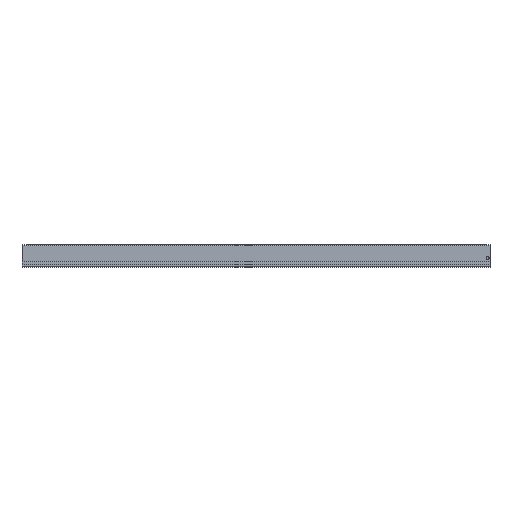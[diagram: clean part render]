
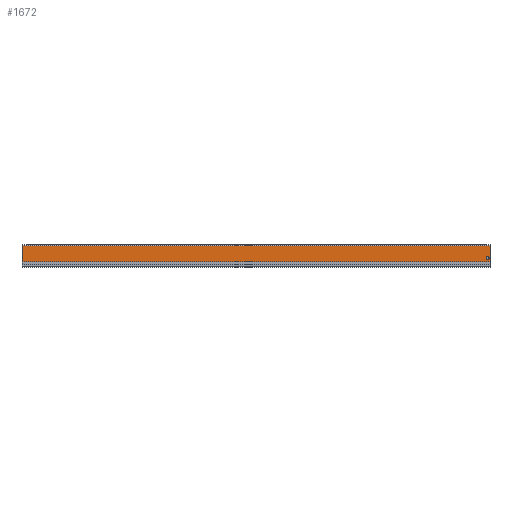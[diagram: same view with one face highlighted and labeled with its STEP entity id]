
A CAD part, top view. The second image highlights one B-rep face of the part: STEP entity #1672.
In plain terms, the highlighted planar face has unit normal (0, 0, 1).
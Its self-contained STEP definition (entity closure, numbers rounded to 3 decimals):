
#49 = LINE ( 'NONE', #705, #1690 ) ;
#65 = CARTESIAN_POINT ( 'NONE',  ( 580., 26.7, 0. ) ) ;
#163 = DIRECTION ( 'NONE',  ( -1., 0., 0. ) ) ;
#203 = VERTEX_POINT ( 'NONE', #1637 ) ;
#222 = VERTEX_POINT ( 'NONE', #65 ) ;
#224 = AXIS2_PLACEMENT_3D ( 'NONE', #945, #464, #624 ) ;
#256 = DIRECTION ( 'NONE',  ( 0., -1., 0. ) ) ;
#293 = CARTESIAN_POINT ( 'NONE',  ( 580., 0., 0. ) ) ;
#342 = FACE_OUTER_BOUND ( 'NONE', #741, .T. ) ;
#352 = VECTOR ( 'NONE', #396, 1000. ) ;
#371 = ORIENTED_EDGE ( 'NONE', *, *, #1813, .F. ) ;
#396 = DIRECTION ( 'NONE',  ( -1., 0., 0. ) ) ;
#423 = EDGE_CURVE ( 'NONE', #1031, #203, #1320, .T. ) ;
#442 = FACE_BOUND ( 'NONE', #1824, .T. ) ;
#464 = DIRECTION ( 'NONE',  ( 0., 0., 1. ) ) ;
#476 = CIRCLE ( 'NONE', #224, 1.85 ) ;
#482 = EDGE_CURVE ( 'NONE', #203, #671, #655, .T. ) ;
#506 = VECTOR ( 'NONE', #1735, 1000. ) ;
#508 = ORIENTED_EDGE ( 'NONE', *, *, #482, .T. ) ;
#511 = ORIENTED_EDGE ( 'NONE', *, *, #783, .T. ) ;
#557 = AXIS2_PLACEMENT_3D ( 'NONE', #293, #1532, #599 ) ;
#599 = DIRECTION ( 'NONE',  ( -1., 0., 0. ) ) ;
#624 = DIRECTION ( 'NONE',  ( -1., 0., 0. ) ) ;
#655 = LINE ( 'NONE', #1070, #506 ) ;
#671 = VERTEX_POINT ( 'NONE', #1103 ) ;
#673 = EDGE_CURVE ( 'NONE', #1015, #1882, #476, .T. ) ;
#705 = CARTESIAN_POINT ( 'NONE',  ( 580., 0., 0. ) ) ;
#741 = EDGE_LOOP ( 'NONE', ( #1494, #511, #1976, #508 ) ) ;
#781 = DIRECTION ( 'NONE',  ( 0., 0., 1. ) ) ;
#783 = EDGE_CURVE ( 'NONE', #222, #1031, #1465, .T. ) ;
#945 = CARTESIAN_POINT ( 'NONE',  ( 577.15, 11.392, 0. ) ) ;
#953 = VECTOR ( 'NONE', #2055, 1000. ) ;
#1015 = VERTEX_POINT ( 'NONE', #1516 ) ;
#1031 = VERTEX_POINT ( 'NONE', #1062 ) ;
#1062 = CARTESIAN_POINT ( 'NONE',  ( 0., 26.7, 0. ) ) ;
#1070 = CARTESIAN_POINT ( 'NONE',  ( 0., 6.6, 0. ) ) ;
#1103 = CARTESIAN_POINT ( 'NONE',  ( 580., 6.6, 0. ) ) ;
#1154 = AXIS2_PLACEMENT_3D ( 'NONE', #2041, #781, #163 ) ;
#1257 = CARTESIAN_POINT ( 'NONE',  ( 575.3, 11.392, 0. ) ) ;
#1320 = LINE ( 'NONE', #1895, #953 ) ;
#1340 = CARTESIAN_POINT ( 'NONE',  ( 580., 26.7, 0. ) ) ;
#1385 = CIRCLE ( 'NONE', #1154, 1.85 ) ;
#1465 = LINE ( 'NONE', #1340, #352 ) ;
#1494 = ORIENTED_EDGE ( 'NONE', *, *, #1524, .F. ) ;
#1516 = CARTESIAN_POINT ( 'NONE',  ( 579., 11.392, 0. ) ) ;
#1524 = EDGE_CURVE ( 'NONE', #222, #671, #49, .T. ) ;
#1532 = DIRECTION ( 'NONE',  ( 0., 0., -1. ) ) ;
#1637 = CARTESIAN_POINT ( 'NONE',  ( 0., 6.6, 0. ) ) ;
#1672 = ADVANCED_FACE ( 'NONE', ( #442, #342 ), #1719, .F. ) ;
#1690 = VECTOR ( 'NONE', #256, 1000. ) ;
#1719 = PLANE ( 'NONE',  #557 ) ;
#1735 = DIRECTION ( 'NONE',  ( 1., 0., 0. ) ) ;
#1782 = ORIENTED_EDGE ( 'NONE', *, *, #673, .F. ) ;
#1813 = EDGE_CURVE ( 'NONE', #1882, #1015, #1385, .T. ) ;
#1824 = EDGE_LOOP ( 'NONE', ( #371, #1782 ) ) ;
#1882 = VERTEX_POINT ( 'NONE', #1257 ) ;
#1895 = CARTESIAN_POINT ( 'NONE',  ( 0., 0., 0. ) ) ;
#1976 = ORIENTED_EDGE ( 'NONE', *, *, #423, .T. ) ;
#2041 = CARTESIAN_POINT ( 'NONE',  ( 577.15, 11.392, 0. ) ) ;
#2055 = DIRECTION ( 'NONE',  ( 0., -1., 0. ) ) ;
